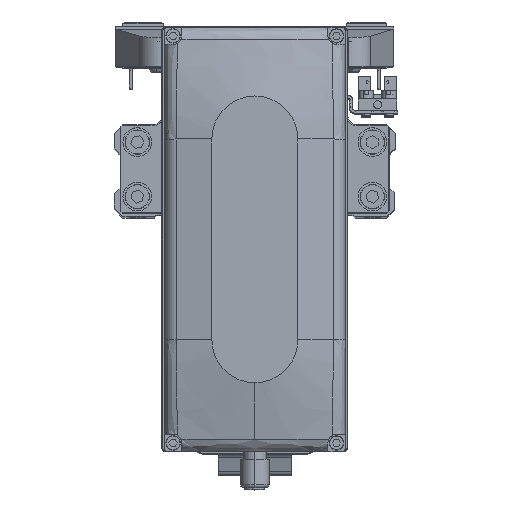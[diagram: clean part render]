
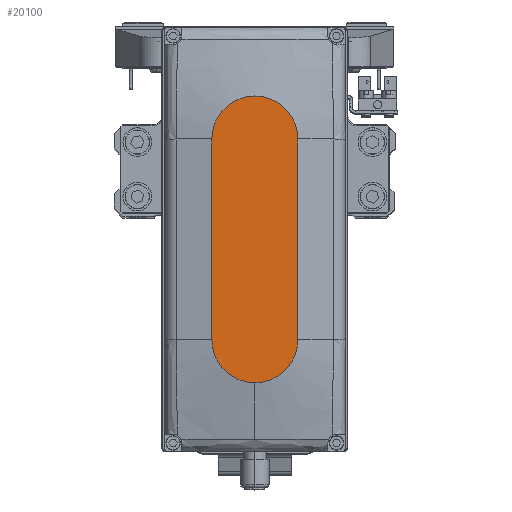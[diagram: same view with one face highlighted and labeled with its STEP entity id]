
A CAD part, top view. The second image highlights one B-rep face of the part: STEP entity #20100.
In plain terms, the highlighted planar face has unit normal (0, 0, 1).
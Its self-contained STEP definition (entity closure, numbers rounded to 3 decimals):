
#1002 = AXIS2_PLACEMENT_3D ( 'NONE', #15495, #28998, #42452 ) ;
#1418 = ORIENTED_EDGE ( 'NONE', *, *, #43524, .T. ) ;
#2129 = VECTOR ( 'NONE', #29070, 1000. ) ;
#2133 = LINE ( 'NONE', #15577, #2129 ) ;
#3568 = DIRECTION ( 'NONE',  ( 0., 0., 1. ) ) ;
#5296 = CARTESIAN_POINT ( 'NONE',  ( 35., -15., 35. ) ) ;
#5613 = EDGE_CURVE ( 'NONE', #6818, #40461, #30048, .T. ) ;
#6025 = ORIENTED_EDGE ( 'NONE', *, *, #40889, .T. ) ;
#6818 = VERTEX_POINT ( 'NONE', #12621 ) ;
#7834 = AXIS2_PLACEMENT_3D ( 'NONE', #15708, #29200, #42647 ) ;
#7899 = DIRECTION ( 'NONE',  ( 1., 0., 0. ) ) ;
#10162 = FACE_OUTER_BOUND ( 'NONE', #16665, .T. ) ;
#10985 = AXIS2_PLACEMENT_3D ( 'NONE', #15493, #28994, #42447 ) ;
#12621 = CARTESIAN_POINT ( 'NONE',  ( -35., 15., 35. ) ) ;
#14792 = EDGE_CURVE ( 'NONE', #40461, #32024, #24668, .T. ) ;
#15493 = CARTESIAN_POINT ( 'NONE',  ( -35., 0., 35. ) ) ;
#15495 = CARTESIAN_POINT ( 'NONE',  ( 35., 0., 35. ) ) ;
#15527 = VECTOR ( 'NONE', #7899, 1000. ) ;
#15577 = CARTESIAN_POINT ( 'NONE',  ( -35., 15., 35. ) ) ;
#15708 = CARTESIAN_POINT ( 'NONE',  ( 35., 0., 35. ) ) ;
#15783 = ORIENTED_EDGE ( 'NONE', *, *, #14792, .T. ) ;
#15905 = ORIENTED_EDGE ( 'NONE', *, *, #37891, .T. ) ;
#16665 = EDGE_LOOP ( 'NONE', ( #15905, #33541, #15783, #6025, #1418 ) ) ;
#17023 = DIRECTION ( 'NONE',  ( 1., 0., 0. ) ) ;
#19998 = CIRCLE ( 'NONE', #1002, 15. ) ;
#20100 = ADVANCED_FACE ( 'NONE', ( #10162 ), #20320, .T. ) ;
#20320 = PLANE ( 'NONE',  #36496 ) ;
#22828 = CARTESIAN_POINT ( 'NONE',  ( -35., -15., 35. ) ) ;
#23749 = CARTESIAN_POINT ( 'NONE',  ( 35., 15., 35. ) ) ;
#24668 = LINE ( 'NONE', #38144, #15527 ) ;
#26885 = CIRCLE ( 'NONE', #7834, 15. ) ;
#28994 = DIRECTION ( 'NONE',  ( 0., 0., 1. ) ) ;
#28998 = DIRECTION ( 'NONE',  ( 0., 0., 1. ) ) ;
#29070 = DIRECTION ( 'NONE',  ( -1., 0., 0. ) ) ;
#29200 = DIRECTION ( 'NONE',  ( 0., 0., 1. ) ) ;
#30048 = CIRCLE ( 'NONE', #10985, 15. ) ;
#32024 = VERTEX_POINT ( 'NONE', #5296 ) ;
#33541 = ORIENTED_EDGE ( 'NONE', *, *, #5613, .T. ) ;
#33803 = CARTESIAN_POINT ( 'NONE',  ( 0., 0., 35. ) ) ;
#35156 = VERTEX_POINT ( 'NONE', #23749 ) ;
#36117 = CARTESIAN_POINT ( 'NONE',  ( 50., 0., 35. ) ) ;
#36147 = VERTEX_POINT ( 'NONE', #36117 ) ;
#36496 = AXIS2_PLACEMENT_3D ( 'NONE', #33803, #3568, #17023 ) ;
#37891 = EDGE_CURVE ( 'NONE', #35156, #6818, #2133, .T. ) ;
#38144 = CARTESIAN_POINT ( 'NONE',  ( -35., -15., 35. ) ) ;
#40461 = VERTEX_POINT ( 'NONE', #22828 ) ;
#40889 = EDGE_CURVE ( 'NONE', #32024, #36147, #26885, .T. ) ;
#42447 = DIRECTION ( 'NONE',  ( 1., 0., 0. ) ) ;
#42452 = DIRECTION ( 'NONE',  ( 1., 0., 0. ) ) ;
#42647 = DIRECTION ( 'NONE',  ( 1., 0., 0. ) ) ;
#43524 = EDGE_CURVE ( 'NONE', #36147, #35156, #19998, .T. ) ;
